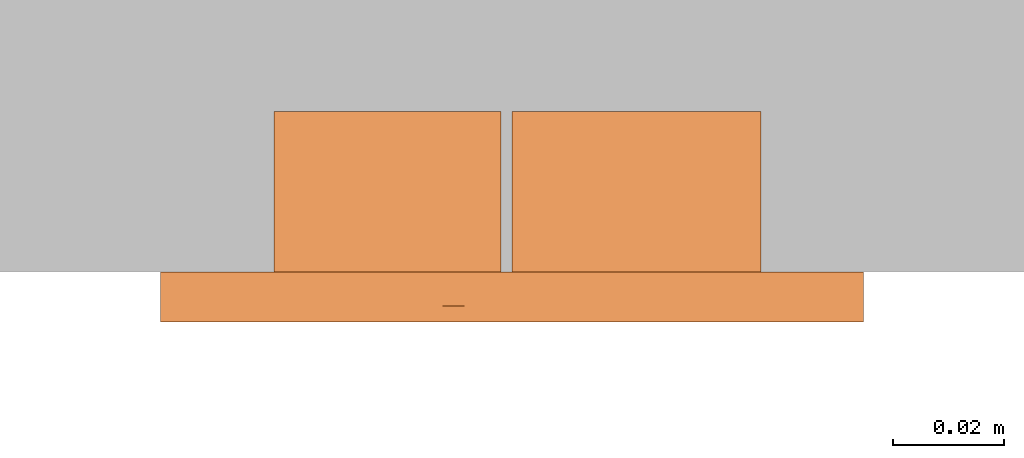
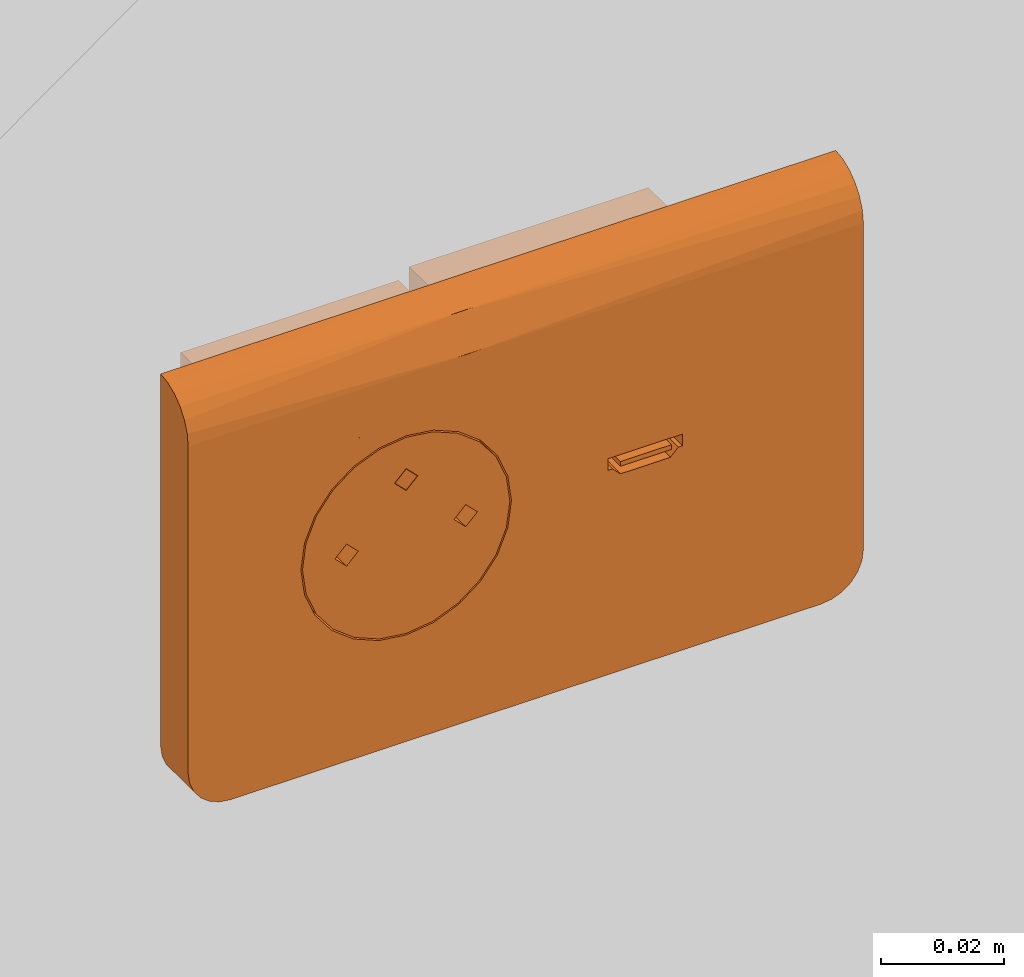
# One storey, part 155 of 197: 1 proxy.
"""IFC2X3 building model written with IfcOpenShell, lengths in metres."""

from ifc_helpers import new_model, entity, si_unit, converted_unit, direction, frame, origin, place, context, subcontext, project, spatial, faceted_brep, source, transform, mapped, material, material_list, type_object, type_shapes, element, save


model = new_model("IFC2X3")

# Units and contexts
model_context = context("Model", 3, precision=1e-05, world=origin(), true_north=direction((6.123031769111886e-17, 1.0)))
body_context = subcontext(model_context, "Body", "Model", "MODEL_VIEW")
ifc_project = project(units=[si_unit("LENGTHUNIT", "METRE"), converted_unit("PLANEANGLEUNIT", "DEGREE", entity("IfcPlaneAngleMeasure", 0.017453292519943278), si_unit("PLANEANGLEUNIT", "RADIAN"), dimensions=[0, 0, 0, 0, 0, 0, 0]), si_unit("AREAUNIT", "SQUARE_METRE")], contexts=[model_context])

# Site, building, storey
site_placement = place(None, origin())
site = spatial("IfcSite", under=ifc_project, at=site_placement, Name="Default", CompositionType="ELEMENT")
building_placement = place(site_placement, origin())
building = spatial("IfcBuilding", under=site, at=building_placement, CompositionType="ELEMENT")
storey_placement = place(building_placement, origin())
storey = spatial("IfcBuildingStorey", under=building, at=storey_placement, Name="Niveau 0", CompositionType="ELEMENT", Elevation=0.0)

# Proxy
ifc_material_1 = material(Name="BETCE-ENJOLIVEUR PC-BLANC")
ifc_material_2 = material(Name="BETCE-HDMI-BLANC")
ifc_material_3 = material(Name="<Unnamed>")
ifc_material_4 = material(Name="BETCE-PCO-ROUGE")
ifc_material_list = material_list([ifc_material_1, ifc_material_2, ifc_material_3, ifc_material_4])
building_element_proxy_type = type_object("IfcBuildingElementProxyType", Name="Poste travail encastré 1x2 modules-1HDMI:1PCO+1HDMI", PredefinedType="NOTDEFINED", material=ifc_material_list)
shared_shape = source(origin(), body_context, "Body", "Brep", [
    faceted_brep([(0.027403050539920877, 0.0, 0.0005602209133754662), (0.017799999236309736, 0.0, 0.0005602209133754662), (0.017799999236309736, -0.008993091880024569, 0.0005602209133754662), (0.027403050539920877, -0.008993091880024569, 0.0005602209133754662), (0.027403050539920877, 0.0, -0.00037500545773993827), (0.027403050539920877, -0.008993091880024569, -0.00037500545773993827), (0.017799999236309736, -0.008993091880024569, -0.00037500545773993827), (0.017799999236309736, 0.0, -0.00037500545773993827)], [[[0, 1, 2, 3]], [[4, 5, 6, 7]], [[1, 0, 4, 7]], [[2, 1, 7, 6]], [[3, 2, 6, 5]], [[0, 3, 5, 4]]]),
    faceted_brep([(0.04499999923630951, -0.008993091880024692, 0.02249999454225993), (0.0, -0.00899309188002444, 0.02249999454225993), (0.0, -0.00899309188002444, -0.022500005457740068), (0.04499999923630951, -0.008993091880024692, -0.022500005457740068), (0.015499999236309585, -0.008993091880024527, 0.0019554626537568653), (0.022354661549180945, -0.008993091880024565, 0.0019554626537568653), (0.02949999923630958, -0.008993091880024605, 0.0019554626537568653), (0.029499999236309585, -0.008993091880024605, -0.00037500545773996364), (0.028699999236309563, -0.008993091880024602, -0.00037500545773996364), (0.027199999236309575, -0.008993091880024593, -0.001875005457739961), (0.01779999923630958, -0.008993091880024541, -0.001875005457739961), (0.01629999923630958, -0.008993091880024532, -0.00037500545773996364), (0.015499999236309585, -0.008993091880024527, -0.00037500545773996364), (0.04499999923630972, 0.0290069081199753, 0.02249999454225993), (0.04499999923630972, 0.0290069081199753, -0.022500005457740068), (0.0, 0.029006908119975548, -0.022500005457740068), (0.0, 0.029006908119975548, 0.02249999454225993), (0.015499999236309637, 0.0, 0.0019554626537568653), (0.015499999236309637, 0.0, -0.00037500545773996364), (0.016299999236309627, 0.0, -0.00037500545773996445), (0.01779999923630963, 0.0, -0.0018750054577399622), (0.02719999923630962, 0.0, -0.001875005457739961), (0.028699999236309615, 0.0, -0.0003750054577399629), (0.02949999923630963, 0.0, -0.00037500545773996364), (0.02949999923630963, 0.0, 0.0019554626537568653), (0.022354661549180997, 0.0, 0.0019554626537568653)], [[[0, 1, 2, 3], [4, 5, 6, 7, 8, 9, 10, 11, 12]], [[13, 14, 15, 16]], [[1, 0, 13, 16]], [[2, 1, 16, 15]], [[3, 2, 15, 14]], [[0, 3, 14, 13]], [[17, 18, 19, 20, 21, 22, 23, 24, 25]], [[17, 25, 5, 4]], [[25, 24, 6, 5]], [[24, 23, 7, 6]], [[23, 22, 8, 7]], [[22, 21, 9, 8]], [[21, 20, 10, 9]], [[20, 19, 11, 10]], [[19, 18, 12, 11]], [[18, 17, 4, 12]]]),
    faceted_brep([(-0.042999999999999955, 0.0, 0.02049999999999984), (-0.042999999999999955, 0.0, -0.02050000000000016), (-0.0019999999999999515, 0.0, -0.02050000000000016), (-0.0019999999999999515, 0.0, 0.02049999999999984), (-0.04299999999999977, 0.029006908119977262, 0.02049999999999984), (-0.0019999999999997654, 0.029006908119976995, 0.02049999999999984), (-0.0019999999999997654, 0.029006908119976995, -0.02050000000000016), (-0.04299999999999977, 0.029006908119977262, -0.02050000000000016)], [[[0, 1, 2, 3]], [[4, 5, 6, 7]], [[1, 0, 4, 7]], [[2, 1, 7, 6]], [[3, 2, 6, 5]], [[0, 3, 5, 4]]]),
    faceted_brep([(-0.045000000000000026, -0.008993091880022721, 0.02249999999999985), (-0.03239999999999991, -0.008993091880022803, 0.01714730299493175), (-0.027624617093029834, -0.008993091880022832, 0.019125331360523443), (-0.03650071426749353, -0.008993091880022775, 0.01400071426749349), (-0.022499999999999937, -0.008993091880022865, 0.019799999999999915), (-0.03964730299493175, -0.008993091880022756, 0.00989999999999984), (-0.0416253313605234, -0.008993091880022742, 0.005124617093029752), (-0.042299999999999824, -0.008993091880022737, 0.0), (-0.04500000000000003, -0.008993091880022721, -0.022500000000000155), (0.0, -0.008993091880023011, 0.02249999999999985), (-0.0416253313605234, -0.008993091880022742, -0.005124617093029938), (-0.039647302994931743, -0.008993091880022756, -0.009900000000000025), (-0.03650071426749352, -0.008993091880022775, -0.014000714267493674), (-0.032399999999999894, -0.008993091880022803, -0.01714730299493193), (-0.027624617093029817, -0.008993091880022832, -0.019125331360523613), (-0.02249999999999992, -0.008993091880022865, -0.019800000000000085), (0.0, -0.008993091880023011, -0.022500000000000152), (-0.017375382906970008, -0.0089930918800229, -0.01912533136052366), (-0.012599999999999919, -0.00899309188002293, -0.017147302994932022), (-0.00849928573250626, -0.008993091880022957, -0.014000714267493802), (-0.005352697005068, -0.008993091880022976, -0.009900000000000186), (-0.003374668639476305, -0.008993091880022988, -0.005124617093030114), (-0.0026999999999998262, -0.008993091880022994, 0.0), (-0.01737538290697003, -0.0089930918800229, 0.019125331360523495), (-0.012599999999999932, -0.00899309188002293, 0.01714730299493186), (-0.008499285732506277, -0.008993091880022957, 0.014000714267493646), (-0.005352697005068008, -0.008993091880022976, 0.009900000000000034), (-0.003374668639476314, -0.008993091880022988, 0.005124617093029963), (-0.04499999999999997, 0.0, -0.022500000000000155), (-0.03239999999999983, 0.0, -0.01714730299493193), (-0.027624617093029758, 0.0, -0.019125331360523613), (-0.03650071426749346, 0.0, -0.014000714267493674), (-0.02249999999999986, 0.0, -0.019800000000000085), (-0.03964730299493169, 0.0, -0.009900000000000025), (-0.04162533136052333, 0.0, -0.005124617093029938), (-0.04229999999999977, 0.0, 0.0), (-0.044999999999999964, 0.0, 0.02249999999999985), (0.0, 0.0, -0.022500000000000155), (-0.041625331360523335, 0.0, 0.005124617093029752), (-0.039647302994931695, 0.0, 0.00989999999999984), (-0.03650071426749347, 0.0, 0.01400071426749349), (-0.03239999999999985, 0.0, 0.01714730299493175), (-0.027624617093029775, 0.0, 0.019125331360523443), (-0.022499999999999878, 0.0, 0.019799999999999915), (0.0, 0.0, 0.02249999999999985), (-0.01737538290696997, 0.0, 0.019125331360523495), (-0.012599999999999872, 0.0, 0.01714730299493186), (-0.008499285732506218, 0.0, 0.014000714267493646), (-0.005352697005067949, 0.0, 0.009900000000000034), (-0.0033746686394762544, 0.0, 0.005124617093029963), (-0.002699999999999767, 0.0, 0.0), (-0.01737538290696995, 0.0, -0.01912533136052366), (-0.01259999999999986, 0.0, -0.017147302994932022), (-0.0084992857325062, 0.0, -0.014000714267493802), (-0.00535269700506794, 0.0, -0.009900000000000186), (-0.003374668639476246, 0.0, -0.005124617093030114)], [[[0, 1, 2]], [[1, 0, 3]], [[0, 2, 4]], [[5, 3, 0]], [[6, 5, 0]], [[7, 6, 0]], [[0, 8, 7]], [[4, 9, 0]], [[10, 7, 8]], [[11, 10, 8]], [[12, 11, 8]], [[8, 13, 12]], [[13, 8, 14]], [[15, 14, 8]], [[8, 16, 15]], [[17, 15, 16]], [[18, 17, 16]], [[16, 19, 18]], [[19, 16, 20]], [[21, 20, 16]], [[22, 21, 16]], [[22, 16, 9]], [[9, 4, 23]], [[9, 23, 24]], [[24, 25, 9]], [[25, 26, 9]], [[26, 27, 9]], [[9, 27, 22]], [[28, 29, 30]], [[29, 28, 31]], [[28, 30, 32]], [[33, 31, 28]], [[34, 33, 28]], [[35, 34, 28]], [[28, 36, 35]], [[32, 37, 28]], [[38, 35, 36]], [[39, 38, 36]], [[40, 39, 36]], [[36, 41, 40]], [[41, 36, 42]], [[43, 42, 36]], [[36, 44, 43]], [[45, 43, 44]], [[46, 45, 44]], [[44, 47, 46]], [[47, 44, 48]], [[49, 48, 44]], [[50, 49, 44]], [[50, 44, 37]], [[37, 32, 51]], [[37, 51, 52]], [[52, 53, 37]], [[53, 54, 37]], [[54, 55, 37]], [[37, 55, 50]], [[36, 28, 8, 0]], [[44, 36, 0, 9]], [[37, 44, 9, 16]], [[28, 37, 16, 8]], [[35, 7, 10, 34]], [[34, 10, 11, 33]], [[29, 31, 12, 13]], [[12, 31, 33, 11]], [[30, 29, 13, 14]], [[30, 14, 15, 32]], [[32, 15, 17, 51]], [[51, 17, 18, 52]], [[54, 53, 19, 20]], [[19, 53, 52, 18]], [[55, 54, 20, 21]], [[55, 21, 22, 50]], [[50, 22, 27, 49]], [[49, 27, 26, 48]], [[46, 47, 25, 24]], [[25, 47, 48, 26]], [[45, 46, 24, 23]], [[45, 23, 4, 43]], [[43, 4, 2, 42]], [[42, 2, 1, 41]], [[39, 40, 3, 5]], [[3, 40, 41, 1]], [[38, 39, 5, 6]], [[38, 6, 7, 35]]]),
    faceted_brep([(-0.03369999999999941, 0.0, -0.002200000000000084), (-0.03224999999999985, 0.0, -0.01688749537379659), (-0.0362885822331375, 0.0, -0.013788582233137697), (-0.02754697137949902, 0.0, -0.01883555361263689), (-0.03938749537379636, 0.0, -0.009750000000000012), (-0.031499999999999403, 0.0, 0.0), (-0.04133555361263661, 0.0, -0.005046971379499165), (-0.035899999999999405, 0.0, 0.0), (-0.02249999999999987, 0.0, -0.019500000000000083), (-0.013499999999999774, 0.0, 0.0), (-0.022499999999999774, 0.0, 0.00889999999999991), (-0.024699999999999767, 0.0, 0.011099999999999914), (-0.03369999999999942, 0.0, 0.0021999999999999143), (-0.04133555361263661, 0.0, 0.005046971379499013), (-0.03938749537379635, 0.0, 0.009749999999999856), (-0.036288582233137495, 0.0, 0.013788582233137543), (-0.032249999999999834, 0.0, 0.01688749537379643), (-0.027546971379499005, 0.0, 0.01883555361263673), (-0.02249999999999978, 0.0, 0.013299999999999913), (-0.020299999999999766, 0.0, 0.011099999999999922), (-0.017453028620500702, 0.0, 0.018835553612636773), (-0.012749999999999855, 0.0, 0.016887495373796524), (-0.008711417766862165, 0.0, 0.01378858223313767), (-0.011299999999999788, 0.0, 0.0021999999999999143), (-0.005612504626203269, 0.0, 0.009750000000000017), (-0.0036644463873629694, 0.0, 0.005046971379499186), (-0.009099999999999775, 0.0, 0.0), (-0.01745302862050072, 0.0, -0.018835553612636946), (-0.011299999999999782, 0.0, -0.002200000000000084), (-0.012749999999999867, 0.0, -0.016887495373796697), (-0.008711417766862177, 0.0, -0.01378858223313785), (-0.0056125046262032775, 0.0, -0.0097500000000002), (-0.0036644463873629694, 0.0, -0.005046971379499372), (-0.0029999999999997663, 0.0, 0.0), (-0.04199999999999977, 0.0, 0.0), (-0.022499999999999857, 0.0, 0.019499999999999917), (-0.0322499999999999, -0.008993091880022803, 0.01688749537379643), (-0.03628858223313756, -0.008993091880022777, 0.013788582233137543), (-0.024699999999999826, -0.008993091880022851, 0.011099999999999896), (-0.027546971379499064, -0.008993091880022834, 0.01883555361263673), (-0.03369999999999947, -0.008993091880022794, 0.0021999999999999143), (-0.03938749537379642, -0.008993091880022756, 0.009749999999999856), (-0.041335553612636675, -0.008993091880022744, 0.005046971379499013), (-0.03589999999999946, -0.00899309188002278, 0.0), (-0.04199999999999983, -0.00899309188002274, 0.0), (-0.04133555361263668, -0.008993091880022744, -0.005046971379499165), (-0.03369999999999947, -0.008993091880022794, -0.002200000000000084), (-0.03938749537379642, -0.008993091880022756, -0.009750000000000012), (-0.036288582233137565, -0.008993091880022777, -0.013788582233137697), (-0.03224999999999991, -0.008993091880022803, -0.01688749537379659), (-0.027546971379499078, -0.008993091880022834, -0.01883555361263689), (-0.031499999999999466, -0.008993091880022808, 0.0), (-0.022499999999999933, -0.008993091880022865, -0.019500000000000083), (-0.013499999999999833, -0.008993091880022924, 0.0), (-0.017453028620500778, -0.008993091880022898, -0.018835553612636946), (-0.011299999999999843, -0.008993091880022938, -0.002200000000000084), (-0.012749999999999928, -0.00899309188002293, -0.016887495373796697), (-0.008711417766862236, -0.008993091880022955, -0.01378858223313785), (-0.0056125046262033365, -0.008993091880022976, -0.0097500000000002), (-0.003664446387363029, -0.008993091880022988, -0.005046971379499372), (-0.00909999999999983, -0.008993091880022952, 0.0), (-0.0029999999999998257, -0.008993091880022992, 0.0), (-0.003664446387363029, -0.008993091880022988, 0.005046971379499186), (-0.011299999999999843, -0.008993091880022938, 0.0021999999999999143), (-0.005612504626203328, -0.008993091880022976, 0.009750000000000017), (-0.008711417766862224, -0.008993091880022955, 0.01378858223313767), (-0.020299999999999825, -0.008993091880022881, 0.011099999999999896), (-0.012749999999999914, -0.00899309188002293, 0.016887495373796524), (-0.01745302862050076, -0.008993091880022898, 0.018835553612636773), (-0.02249999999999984, -0.008993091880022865, 0.013299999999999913), (-0.022499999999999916, -0.008993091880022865, 0.019499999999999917), (-0.022499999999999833, -0.008993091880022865, 0.00889999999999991)], [[[0, 1, 2]], [[0, 3, 1]], [[2, 4, 0]], [[0, 5, 3]], [[6, 0, 4]], [[7, 0, 6]], [[3, 5, 8]], [[8, 5, 9]], [[9, 5, 10]], [[10, 5, 11]], [[12, 11, 5]], [[13, 12, 7]], [[13, 14, 12]], [[12, 14, 15]], [[15, 11, 12]], [[15, 16, 11]], [[17, 11, 16]], [[11, 17, 18]], [[19, 9, 10]], [[18, 20, 19]], [[21, 19, 20]], [[19, 21, 22]], [[19, 22, 23]], [[9, 19, 23]], [[24, 23, 22]], [[23, 24, 25]], [[26, 23, 25]], [[27, 8, 9]], [[28, 27, 9]], [[28, 29, 27]], [[28, 30, 29]], [[28, 31, 30]], [[28, 32, 31]], [[32, 28, 26]], [[32, 26, 33]], [[33, 26, 25]], [[6, 34, 7]], [[7, 34, 13]], [[18, 17, 35]], [[20, 18, 35]], [[36, 37, 38]], [[38, 39, 36]], [[37, 40, 38]], [[40, 37, 41]], [[41, 42, 40]], [[40, 42, 43]], [[44, 43, 42]], [[44, 45, 43]], [[46, 43, 45]], [[45, 47, 46]], [[46, 47, 48]], [[49, 46, 48]], [[46, 49, 50]], [[51, 46, 50]], [[51, 50, 52]], [[52, 53, 51]], [[53, 52, 54]], [[55, 53, 54]], [[54, 56, 55]], [[56, 57, 55]], [[55, 57, 58]], [[58, 59, 55]], [[60, 55, 59]], [[59, 61, 60]], [[61, 62, 60]], [[62, 63, 60]], [[64, 63, 62]], [[64, 65, 63]], [[63, 65, 66]], [[66, 65, 67]], [[66, 67, 68]], [[66, 68, 69]], [[68, 70, 69]], [[70, 39, 69]], [[69, 39, 38]], [[53, 66, 71]], [[63, 66, 53]], [[71, 51, 53]], [[38, 51, 71]], [[38, 40, 51]], [[42, 13, 34, 44]], [[41, 14, 13, 42]], [[15, 37, 36, 16]], [[41, 37, 15, 14]], [[16, 36, 39, 17]], [[17, 39, 70, 35]], [[67, 21, 20, 68]], [[65, 22, 21, 67]], [[24, 64, 62, 25]], [[65, 64, 24, 22]], [[25, 62, 61, 33]], [[20, 35, 70, 68]], [[59, 32, 33, 61]], [[58, 31, 32, 59]], [[30, 57, 56, 29]], [[58, 57, 30, 31]], [[29, 56, 54, 27]], [[27, 54, 52, 8]], [[49, 1, 3, 50]], [[48, 2, 1, 49]], [[4, 47, 45, 6]], [[48, 47, 4, 2]], [[6, 45, 44, 34]], [[3, 8, 52, 50]], [[71, 10, 11, 38]], [[66, 19, 10, 71]], [[69, 18, 19, 66]], [[38, 11, 18, 69]], [[55, 28, 9, 53]], [[60, 26, 28, 55]], [[63, 23, 26, 60]], [[53, 9, 23, 63]], [[46, 0, 7, 43]], [[51, 5, 0, 46]], [[40, 12, 5, 51]], [[43, 7, 12, 40]]]),
    faceted_brep([(-0.022499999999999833, -0.008993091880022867, 0.008999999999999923), (-0.020399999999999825, -0.008993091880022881, 0.011099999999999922), (-0.022499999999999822, -0.008993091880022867, 0.01319999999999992), (-0.024599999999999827, -0.008993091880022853, 0.011099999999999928), (-0.024599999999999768, 0.0, 0.011099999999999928), (-0.022499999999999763, 0.0, 0.01319999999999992), (-0.020399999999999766, 0.0, 0.011099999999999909), (-0.022499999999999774, 0.0, 0.008999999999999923)], [[[0, 1, 2, 3]], [[4, 5, 6, 7]], [[3, 4, 7, 0]], [[7, 6, 1, 0]], [[1, 6, 5, 2]], [[5, 4, 3, 2]]]),
    faceted_brep([(0.06349999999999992, -0.008993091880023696, -0.033000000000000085), (0.06349999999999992, -0.008993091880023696, 0.03200000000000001), (0.044999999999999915, -0.008993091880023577, -0.02250000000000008), (0.055499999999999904, -0.008993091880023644, -0.04099999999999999), (0.05757055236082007, -0.008993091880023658, -0.040727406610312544), (0.05949999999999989, -0.00899309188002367, -0.0399282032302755), (0.06115685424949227, -0.008993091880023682, -0.038656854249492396), (0.06322740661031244, -0.008993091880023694, -0.03507055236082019), (0.044999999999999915, -0.008993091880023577, 0.022499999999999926), (-0.04500000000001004, -0.008993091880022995, 0.022499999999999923), (-0.011124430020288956, -0.008993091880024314, 0.03199999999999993), (-0.06350000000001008, -0.008993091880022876, 0.03200000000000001), (-0.04500000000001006, -0.008993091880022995, -0.02250000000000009), (-0.06350000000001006, -0.008993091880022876, -0.03299999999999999), (-0.055500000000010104, -0.008993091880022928, -0.04099999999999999), (-0.057570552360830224, -0.008993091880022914, -0.040727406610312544), (-0.05950000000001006, -0.008993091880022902, -0.0399282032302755), (-0.06115685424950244, -0.008993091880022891, -0.03865685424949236), (-0.06322740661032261, -0.008993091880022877, -0.03507055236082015), (-0.06242820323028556, -0.008993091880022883, -0.036999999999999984), (0.062428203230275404, -0.00899309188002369, -0.03700000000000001), (-0.06350000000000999, 0.0, -0.03299999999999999), (-0.06350000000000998, 0.0, 0.04099999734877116), (-0.04500000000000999, 0.0, 0.022499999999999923), (-0.04500000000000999, 0.0, -0.02250000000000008), (-0.05550000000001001, 0.0, -0.04099999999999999), (-0.057570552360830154, 0.0, -0.040727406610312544), (-0.05950000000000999, 0.0, -0.0399282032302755), (-0.06322740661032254, 0.0, -0.03507055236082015), (0.011124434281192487, 0.0, 0.04099999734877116), (0.06349999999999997, 0.0, 0.04100000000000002), (0.04499999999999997, 0.0, 0.022499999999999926), (0.06349999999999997, 0.0, -0.033000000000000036), (0.04499999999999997, 0.0, -0.02250000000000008), (0.05549999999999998, 0.0, -0.04099999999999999), (0.05757055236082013, 0.0, -0.040727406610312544), (0.05949999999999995, 0.0, -0.0399282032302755), (0.06322740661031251, 0.0, -0.03507055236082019), (0.06115685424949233, 0.0, -0.038656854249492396), (0.06242820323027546, 0.0, -0.03700000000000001), (-0.06115685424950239, 0.0, -0.03865685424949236), (-0.062428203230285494, 0.0, -0.036999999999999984), (0.06349999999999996, -0.0023280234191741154, 0.0406918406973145), (0.06349999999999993, -0.004497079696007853, 0.03979192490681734), (0.06349999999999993, -0.0063594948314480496, 0.03836151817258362), (0.06349999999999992, -0.007788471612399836, 0.03649800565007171), (0.06349999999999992, -0.00868672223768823, 0.03432825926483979), (-0.06350000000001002, -0.0023280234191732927, 0.0406918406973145), (-0.06350000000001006, -0.008686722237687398, 0.034328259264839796), (-0.06350000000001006, -0.00778847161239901, 0.036498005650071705), (-0.06350000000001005, -0.006359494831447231, 0.0383615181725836), (-0.06350000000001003, -0.00449707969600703, 0.03979192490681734), (-0.01087655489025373, -0.006115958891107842, 0.03859624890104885)], [[[0, 1, 2]], [[3, 0, 2]], [[0, 3, 4]], [[0, 4, 5]], [[5, 6, 0]], [[7, 0, 6]], [[2, 1, 8]], [[1, 9, 8]], [[9, 1, 10]], [[9, 10, 11]], [[12, 9, 11]], [[13, 12, 11]], [[14, 12, 13]], [[14, 13, 15]], [[16, 15, 13]], [[13, 17, 16]], [[17, 13, 18]], [[17, 18, 19]], [[12, 14, 3]], [[2, 12, 3]], [[20, 7, 6]], [[21, 22, 23]], [[24, 21, 23]], [[25, 21, 24]], [[21, 25, 26]], [[21, 26, 27]], [[28, 21, 27]], [[23, 22, 29]], [[23, 29, 30]], [[31, 23, 30]], [[32, 31, 30]], [[33, 31, 32]], [[34, 33, 32]], [[34, 32, 35]], [[36, 35, 32]], [[36, 32, 37]], [[37, 38, 36]], [[38, 37, 39]], [[33, 34, 25]], [[24, 33, 25]], [[27, 40, 28]], [[41, 28, 40]], [[1, 0, 32, 30, 42, 43, 44, 45, 46]], [[37, 32, 0, 7]], [[39, 37, 7, 20]], [[38, 39, 20, 6]], [[36, 38, 6, 5]], [[35, 36, 5, 4]], [[34, 35, 4, 3]], [[25, 34, 3, 14]], [[26, 25, 14, 15]], [[27, 26, 15, 16]], [[40, 27, 16, 17]], [[41, 40, 17, 19]], [[28, 41, 19, 18]], [[21, 28, 18, 13]], [[47, 22, 21, 13, 11, 48, 49, 50, 51]], [[24, 23, 9, 12]], [[33, 24, 12, 2]], [[31, 33, 2, 8]], [[23, 31, 8, 9]], [[52, 10, 45]], [[48, 11, 10]], [[1, 46, 10]], [[44, 52, 45]], [[46, 45, 10]], [[51, 52, 47]], [[49, 48, 10]], [[29, 52, 43]], [[49, 52, 50]], [[42, 30, 29]], [[29, 22, 47]], [[49, 10, 52]], [[29, 43, 42]], [[44, 43, 52]], [[52, 51, 50]], [[52, 29, 47]]]),
])
type_shapes(building_element_proxy_type, [shared_shape])
proxy_placement = place(storey_placement, frame((-357.7499485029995, 97.32254659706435, 0.49999999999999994)))
element("IfcBuildingElementProxy", 1, at=proxy_placement, inside=storey, type_object=building_element_proxy_type, material=ifc_material_list, Name="Poste travail encastré 1x2 modules-1HDMI:1PCO+1HDMI", ObjectType="Poste travail encastré 1x2 modules-1HDMI:1PCO+1HDMI", context=body_context, shape_type="MappedRepresentation", body=[
    mapped(shared_shape, transform((0.0, 0.0, 0.0), scale=1.0)),
])

save(model, "model.ifc")
